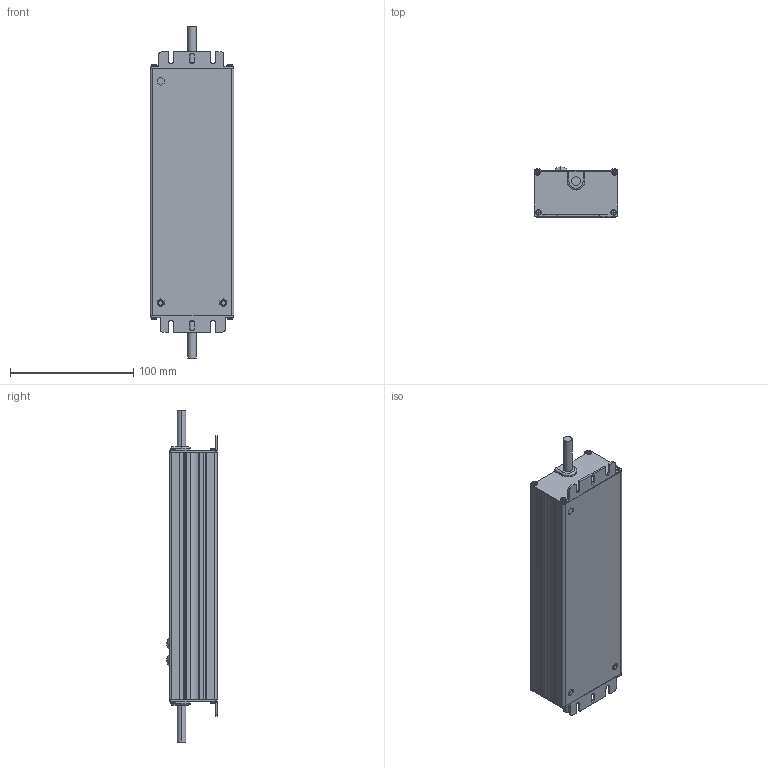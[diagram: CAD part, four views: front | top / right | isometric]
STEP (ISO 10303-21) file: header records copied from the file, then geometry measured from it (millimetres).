
FILE_DESCRIPTION((''),'2;1');
FILE_NAME('LNE-XXV150W_185W_AXA__ASM_ASM','2017-10-13T',('LEON.YEH'),(''),'PRO/ENGINEER BY PARAMETRIC TECHNOLOGY CORPORATION, 2010280','PRO/ENGINEER BY PARAMETRIC TECHNOLOGY CORPORATION, 2010280','');
FILE_SCHEMA(('CONFIG_CONTROL_DESIGN'));
Length unit declared in the file: millimetre
Products named in the file (14): PLUG-15__W___ANY_1; SCREW_02__W___ANY_1; LHE-185W_CHASSIS__W___ANY_1; PCB-185W__W___ANY_1; 185W_PWB__W___ANY_ASM_1_ASM; M3_SCREW_BAR__W___ANY_1; FIX_BOARD-AC-NEW__W___ANY_1; RUBBER_SEAL__W___ANY_1; GM-3IV0-NEW__W___ANY_3; LHE-185W_COVER__W___ANY_1; LNE-48V185WACA-EVT2_120314__ANY_ASM; LABEL_4; LNE-48V185WACA-EVT2_120314__ASM_ASM; LNE-XXV150W_185W_AXA__ASM_ASM
Assembly tree (24 placements, depth 5):
  LNE-XXV150W_185W_AXA__ASM_ASM
    LNE-48V185WACA-EVT2_120314__ASM_ASM
      LNE-48V185WACA-EVT2_120314__ANY_ASM
        PLUG-15__W___ANY_1  x2
        SCREW_02__W___ANY_1  x4
        LHE-185W_CHASSIS__W___ANY_1
        185W_PWB__W___ANY_ASM_1_ASM
          PCB-185W__W___ANY_1
        M3_SCREW_BAR__W___ANY_1
        FIX_BOARD-AC-NEW__W___ANY_1
        RUBBER_SEAL__W___ANY_1
        GM-3IV0-NEW__W___ANY_3
        LHE-185W_COVER__W___ANY_1
      LABEL_4
      RUBBER_SEAL__W___ANY_1
      FIX_BOARD-AC-NEW__W___ANY_1
      GM-3IV0-NEW__W___ANY_3
    SCREW_02__W___ANY_1  x4
Bounding box: 68 x 40.7 x 269.4 mm (x, y, z)
Volume: 124561.7 mm3; surface area: 159367.1 mm2
Topology: 21 solids, 21 shells, 1043 faces, 2611 edges, 1652 vertices
Faces by surface type: plane 380, cylinder 303, cone 292, torus 48, bspline 20
Entity records: 15587 total; most frequent: CARTESIAN_POINT 2986, DIRECTION 2783, ORIENTED_EDGE 2486, EDGE_CURVE 1243, AXIS2_PLACEMENT_3D 1045, VERTEX_POINT 823, VECTOR 693, LINE 693
